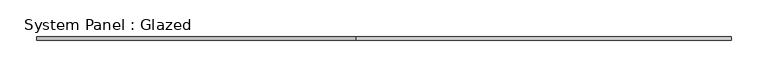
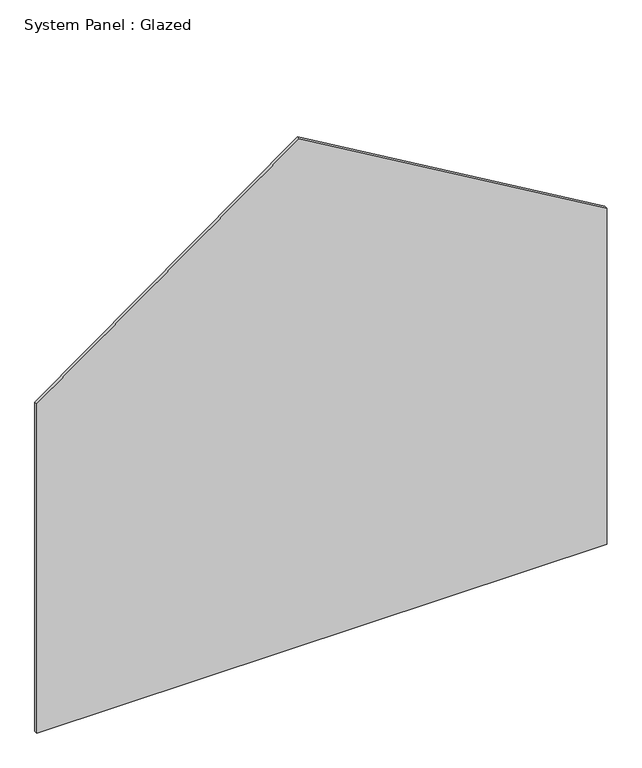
"""IFC4 building model written with IfcOpenShell, lengths in millimetres: plate geometry, System Panel : Glazed."""

from ifc_helpers import new_model, si_unit, frame, origin, place, context, project, spatial, polyline, outline, extrude, source, transform, mapped, element, save


def system_panel_glazed_5a163f1a(model_context):
    return source(origin(), model_context, "Body", "SweptSolid", [
        extrude(outline(polyline([(0.0, -475.0), (0.0, 475.0), (591.541285, 475.0), (893.3554643, -37.6974783), (579.7036116, -475.0), (0.0, -475.0)])), frame((0.0, -2.5, 0.0), z_axis=(0.0, 1.0, 0.0), x_axis=(0.0, 0.0, 1.0)), (0.0, 0.0, 1.0), 5.0),
    ])


if __name__ == "__main__":
    model = new_model("IFC4")
    model_context = context("Model", 3, world=origin())
    ifc_project = project(units=[si_unit("LENGTHUNIT", "METRE", prefix="MILLI")], contexts=[model_context])
    site = spatial("IfcSite", under=ifc_project)
    building = spatial("IfcBuilding", under=site)
    placement = place(None, origin())
    system_panel_glazed_shape = system_panel_glazed_5a163f1a(model_context)
    element("IfcPlate", 1, ObjectType="System Panel : Glazed", at=placement, inside=building, context=model_context, shape_type="MappedRepresentation", body=[
        mapped(system_panel_glazed_shape, transform((0.0, 0.0, 0.0), x_axis=(1.0, 0.0, 0.0), y_axis=(0.0, 1.0, 0.0), z_axis=(0.0, 0.0, 1.0))),
    ])
    save(model, "model.ifc")
